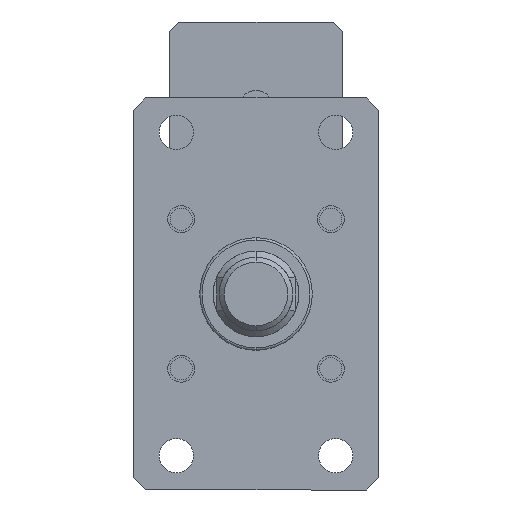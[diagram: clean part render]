
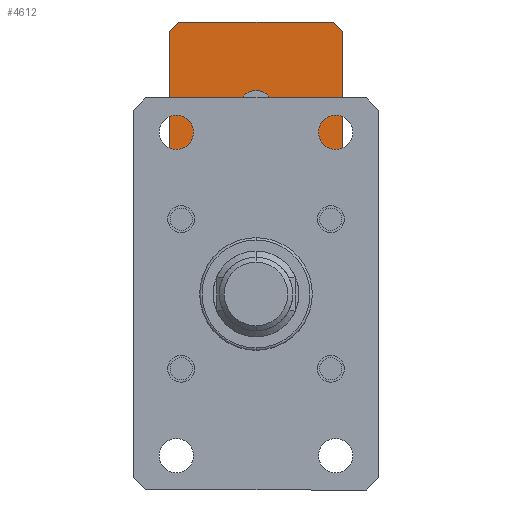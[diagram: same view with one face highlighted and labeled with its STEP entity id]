
A CAD part, front view. The second image highlights one B-rep face of the part: STEP entity #4612.
In plain terms, the highlighted planar face has unit normal (0, -1, 0).
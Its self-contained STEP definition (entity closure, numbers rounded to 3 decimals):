
#68 = LINE ( 'NONE', #4126, #1824 ) ;
#309 = VERTEX_POINT ( 'NONE', #1816 ) ;
#312 = VECTOR ( 'NONE', #6351, 1000. ) ;
#315 = ORIENTED_EDGE ( 'NONE', *, *, #1330, .F. ) ;
#357 = EDGE_CURVE ( 'NONE', #7234, #745, #68, .T. ) ;
#369 = CARTESIAN_POINT ( 'NONE',  ( -35.5, 260., 44. ) ) ;
#373 = CARTESIAN_POINT ( 'NONE',  ( 31.5, 260., 40. ) ) ;
#523 = DIRECTION ( 'NONE',  ( 1., 0., 0. ) ) ;
#607 = DIRECTION ( 'NONE',  ( -0.707, 0., 0.707 ) ) ;
#745 = VERTEX_POINT ( 'NONE', #3551 ) ;
#855 = DIRECTION ( 'NONE',  ( 0.707, 0., -0.707 ) ) ;
#869 = EDGE_CURVE ( 'NONE', #1945, #4553, #1717, .T. ) ;
#906 = EDGE_CURVE ( 'NONE', #4291, #7036, #6116, .T. ) ;
#1000 = EDGE_CURVE ( 'NONE', #309, #4291, #5557, .T. ) ;
#1075 = CARTESIAN_POINT ( 'NONE',  ( 35.5, 260., 107. ) ) ;
#1084 = ORIENTED_EDGE ( 'NONE', *, *, #1672, .T. ) ;
#1124 = AXIS2_PLACEMENT_3D ( 'NONE', #3100, #7280, #3701 ) ;
#1275 = VECTOR ( 'NONE', #855, 1000. ) ;
#1330 = EDGE_CURVE ( 'NONE', #4553, #1945, #5025, .T. ) ;
#1344 = ORIENTED_EDGE ( 'NONE', *, *, #1000, .T. ) ;
#1391 = AXIS2_PLACEMENT_3D ( 'NONE', #4871, #6078, #2514 ) ;
#1395 = VERTEX_POINT ( 'NONE', #2980 ) ;
#1672 = EDGE_CURVE ( 'NONE', #5229, #3904, #7522, .T. ) ;
#1707 = ORIENTED_EDGE ( 'NONE', *, *, #5244, .F. ) ;
#1717 = CIRCLE ( 'NONE', #1124, 7.5 ) ;
#1750 = FACE_OUTER_BOUND ( 'NONE', #2600, .T. ) ;
#1816 = CARTESIAN_POINT ( 'NONE',  ( -31.5, 260., 111. ) ) ;
#1824 = VECTOR ( 'NONE', #607, 1000. ) ;
#1945 = VERTEX_POINT ( 'NONE', #5954 ) ;
#2005 = CARTESIAN_POINT ( 'NONE',  ( -35.5, 260., 44. ) ) ;
#2086 = CARTESIAN_POINT ( 'NONE',  ( -35.5, 260., 40. ) ) ;
#2161 = ORIENTED_EDGE ( 'NONE', *, *, #3807, .T. ) ;
#2196 = CARTESIAN_POINT ( 'NONE',  ( 35.5, 260., 111. ) ) ;
#2514 = DIRECTION ( 'NONE',  ( 0., 0., 1. ) ) ;
#2600 = EDGE_LOOP ( 'NONE', ( #2161, #1084, #1707, #3617, #3882, #1344, #3679, #5537 ) ) ;
#2980 = CARTESIAN_POINT ( 'NONE',  ( -31.5, 260., 40. ) ) ;
#2990 = DIRECTION ( 'NONE',  ( 0., 0., -1. ) ) ;
#3037 = LINE ( 'NONE', #2005, #1275 ) ;
#3097 = CARTESIAN_POINT ( 'NONE',  ( -31.5, 260., 111. ) ) ;
#3100 = CARTESIAN_POINT ( 'NONE',  ( 0., 260., 75.5 ) ) ;
#3155 = FACE_BOUND ( 'NONE', #7536, .T. ) ;
#3242 = DIRECTION ( 'NONE',  ( 0.707, 0., 0.707 ) ) ;
#3478 = EDGE_CURVE ( 'NONE', #309, #745, #4152, .T. ) ;
#3501 = AXIS2_PLACEMENT_3D ( 'NONE', #7092, #3517, #7684 ) ;
#3517 = DIRECTION ( 'NONE',  ( 0., -1., 0. ) ) ;
#3551 = CARTESIAN_POINT ( 'NONE',  ( 31.5, 260., 111. ) ) ;
#3617 = ORIENTED_EDGE ( 'NONE', *, *, #357, .T. ) ;
#3679 = ORIENTED_EDGE ( 'NONE', *, *, #906, .T. ) ;
#3683 = LINE ( 'NONE', #2086, #5277 ) ;
#3694 = DIRECTION ( 'NONE',  ( -0.707, 0., -0.707 ) ) ;
#3701 = DIRECTION ( 'NONE',  ( 0., 0., -1. ) ) ;
#3807 = EDGE_CURVE ( 'NONE', #1395, #5229, #3683, .T. ) ;
#3882 = ORIENTED_EDGE ( 'NONE', *, *, #3478, .F. ) ;
#3904 = VERTEX_POINT ( 'NONE', #5946 ) ;
#4126 = CARTESIAN_POINT ( 'NONE',  ( 31.5, 260., 111. ) ) ;
#4129 = EDGE_CURVE ( 'NONE', #7036, #1395, #3037, .T. ) ;
#4152 = LINE ( 'NONE', #5143, #7137 ) ;
#4195 = ORIENTED_EDGE ( 'NONE', *, *, #869, .F. ) ;
#4264 = PLANE ( 'NONE',  #1391 ) ;
#4291 = VERTEX_POINT ( 'NONE', #4501 ) ;
#4501 = CARTESIAN_POINT ( 'NONE',  ( -35.5, 260., 107. ) ) ;
#4553 = VERTEX_POINT ( 'NONE', #5985 ) ;
#4612 = ADVANCED_FACE ( 'NONE', ( #3155, #1750 ), #4264, .F. ) ;
#4696 = VECTOR ( 'NONE', #2990, 1000. ) ;
#4871 = CARTESIAN_POINT ( 'NONE',  ( -35.5, 260., 111. ) ) ;
#5025 = CIRCLE ( 'NONE', #3501, 7.5 ) ;
#5143 = CARTESIAN_POINT ( 'NONE',  ( -35.5, 260., 111. ) ) ;
#5180 = VECTOR ( 'NONE', #3694, 1000. ) ;
#5229 = VERTEX_POINT ( 'NONE', #373 ) ;
#5244 = EDGE_CURVE ( 'NONE', #7234, #3904, #6795, .T. ) ;
#5277 = VECTOR ( 'NONE', #523, 1000. ) ;
#5537 = ORIENTED_EDGE ( 'NONE', *, *, #4129, .T. ) ;
#5557 = LINE ( 'NONE', #3097, #5180 ) ;
#5920 = VECTOR ( 'NONE', #3242, 1000. ) ;
#5946 = CARTESIAN_POINT ( 'NONE',  ( 35.5, 260., 44. ) ) ;
#5954 = CARTESIAN_POINT ( 'NONE',  ( 0., 260., 68. ) ) ;
#5985 = CARTESIAN_POINT ( 'NONE',  ( 0., 260., 83. ) ) ;
#6078 = DIRECTION ( 'NONE',  ( 0., 1., 0. ) ) ;
#6116 = LINE ( 'NONE', #7155, #4696 ) ;
#6204 = CARTESIAN_POINT ( 'NONE',  ( 35.5, 260., 44. ) ) ;
#6351 = DIRECTION ( 'NONE',  ( 0., 0., -1. ) ) ;
#6795 = LINE ( 'NONE', #2196, #312 ) ;
#7036 = VERTEX_POINT ( 'NONE', #369 ) ;
#7092 = CARTESIAN_POINT ( 'NONE',  ( 0., 260., 75.5 ) ) ;
#7137 = VECTOR ( 'NONE', #7665, 1000. ) ;
#7155 = CARTESIAN_POINT ( 'NONE',  ( -35.5, 260., 111. ) ) ;
#7234 = VERTEX_POINT ( 'NONE', #1075 ) ;
#7280 = DIRECTION ( 'NONE',  ( 0., -1., 0. ) ) ;
#7522 = LINE ( 'NONE', #6204, #5920 ) ;
#7536 = EDGE_LOOP ( 'NONE', ( #4195, #315 ) ) ;
#7665 = DIRECTION ( 'NONE',  ( 1., 0., 0. ) ) ;
#7684 = DIRECTION ( 'NONE',  ( 0., 0., -1. ) ) ;
